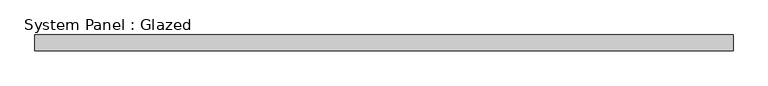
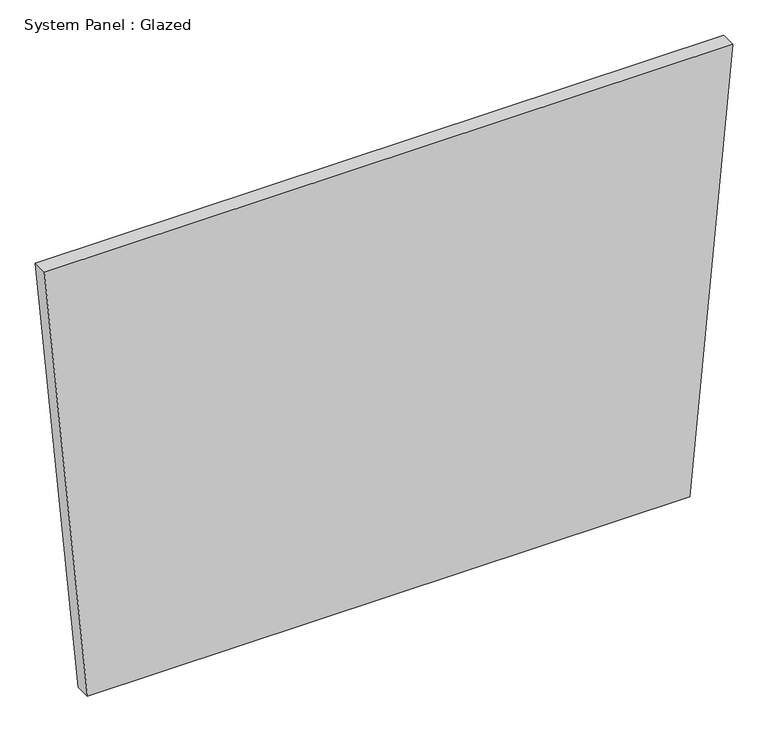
"""IFC4 building model written with IfcOpenShell, lengths in millimetres: plate geometry, System Panel : Glazed."""

from ifc_helpers import new_model, si_unit, frame, origin, place, context, project, spatial, polyline, outline, extrude, source, transform, mapped, element, save


def system_panel_glazed_5c7ad1fa(model_context):
    return source(origin(), model_context, "Body", "SweptSolid", [
        extrude(outline(polyline([(0.0, -493.1284744), (0.0, 493.1284744), (758.7366017, 563.5753994), (758.7366017, -563.5753994), (0.0, -493.1284744)])), frame((0.0, -44.45, 0.0), z_axis=(0.0, 1.0, 0.0), x_axis=(0.0, 0.0, 1.0)), (0.0, 0.0, 1.0), 25.4),
    ])


if __name__ == "__main__":
    model = new_model("IFC4")
    model_context = context("Model", 3, world=origin())
    ifc_project = project(units=[si_unit("LENGTHUNIT", "METRE", prefix="MILLI")], contexts=[model_context])
    site = spatial("IfcSite", under=ifc_project)
    building = spatial("IfcBuilding", under=site)
    placement = place(None, origin())
    system_panel_glazed_shape = system_panel_glazed_5c7ad1fa(model_context)
    element("IfcPlate", 1, ObjectType="System Panel : Glazed", at=placement, inside=building, context=model_context, shape_type="MappedRepresentation", body=[
        mapped(system_panel_glazed_shape, transform((0.0, 0.0, 0.0), x_axis=(1.0, 0.0, 0.0), y_axis=(0.0, 1.0, 0.0), z_axis=(0.0, 0.0, 1.0))),
    ])
    save(model, "model.ifc")
